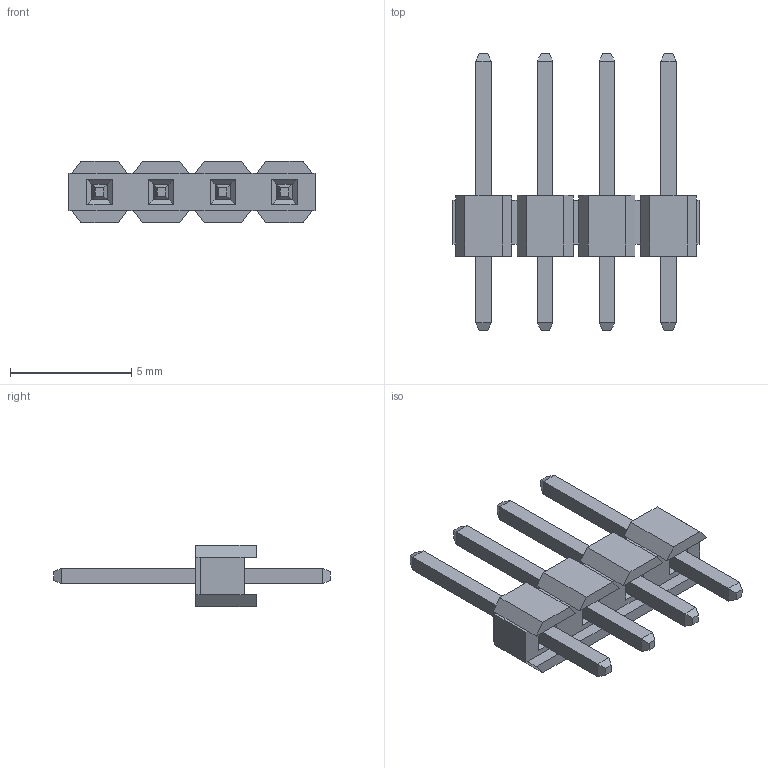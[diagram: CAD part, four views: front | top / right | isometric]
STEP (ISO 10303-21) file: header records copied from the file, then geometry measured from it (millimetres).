
FILE_DESCRIPTION (( 'STEP AP203' ), '1' );
FILE_NAME ('_ _ _C004SAAN-RC.STEP', '2016-06-08T07:48:29', ( 'LUANN HERRING' ), ( 'SULLINS' ), 'SwSTEP 2.0', 'SolidWorks 2015', '' );
FILE_SCHEMA (( 'CONFIG_CONTROL_DESIGN' ));
Length unit declared in the file: inch
Products named in the file (2): _ _ _C004SAAN-RC
Bounding box: 10.16 x 11.39 x 2.54 mm (x, y, z)
Volume: 65 mm3; surface area: 256.2 mm2
Topology: 5 solids, 5 shells, 158 faces, 364 edges, 216 vertices
Faces by surface type: plane 158
Entity records: 4433 total; most frequent: CARTESIAN_POINT 740, ORIENTED_EDGE 728, DIRECTION 684, EDGE_CURVE 364, LINE 364, VECTOR 364, VERTEX_POINT 216, EDGE_LOOP 166
